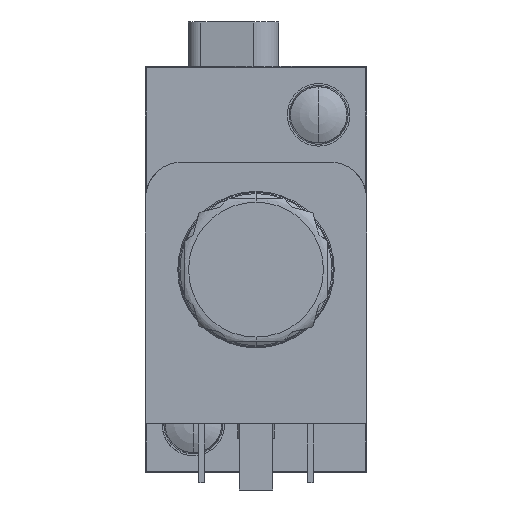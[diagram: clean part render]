
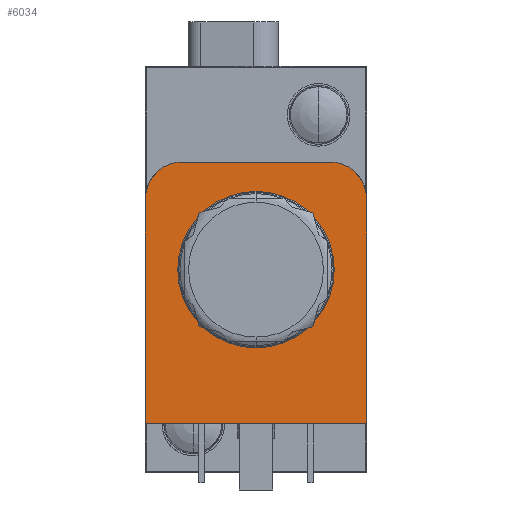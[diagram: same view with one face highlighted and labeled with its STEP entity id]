
A CAD part, front view. The second image highlights one B-rep face of the part: STEP entity #6034.
In plain terms, the highlighted planar face has unit normal (0, -1, 0).
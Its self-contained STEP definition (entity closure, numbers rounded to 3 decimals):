
#1959=DIRECTION('',(1.,0.,0.));
#1960=VECTOR('',#1959,30.);
#1961=CARTESIAN_POINT('',(-15.,-91.,-20.9));
#1962=LINE('8192',#1961,#1960);
#1963=DIRECTION('',(0.,0.,-1.));
#1964=VECTOR('',#1963,30.5);
#1965=CARTESIAN_POINT('',(-15.,-91.,9.6));
#1966=LINE('8197',#1965,#1964);
#1967=CARTESIAN_POINT('',(-10.,-91.,9.6));
#1968=DIRECTION('',(0.,-1.,0.));
#1969=DIRECTION('',(0.,0.,1.));
#1970=AXIS2_PLACEMENT_3D('',#1967,#1968,#1969);
#1972=DIRECTION('',(-1.,0.,0.));
#1973=VECTOR('',#1972,20.);
#1974=CARTESIAN_POINT('',(10.,-91.,14.6));
#1975=LINE('8195',#1974,#1973);
#1976=CARTESIAN_POINT('',(10.,-91.,9.6));
#1977=DIRECTION('',(0.,-1.,0.));
#1978=DIRECTION('',(1.,0.,0.));
#1979=AXIS2_PLACEMENT_3D('',#1976,#1977,#1978);
#1981=DIRECTION('',(0.,0.,1.));
#1982=VECTOR('',#1981,30.5);
#1983=CARTESIAN_POINT('',(15.,-91.,-20.9));
#1984=LINE('8193',#1983,#1982);
#1985=CARTESIAN_POINT('',(0.,-91.,0.));
#1986=DIRECTION('',(0.,-1.,0.));
#1987=DIRECTION('',(0.,0.,-1.));
#1988=AXIS2_PLACEMENT_3D('',#1985,#1986,#1987);
#1990=CARTESIAN_POINT('',(0.,-91.,0.));
#1991=DIRECTION('',(0.,-1.,0.));
#1992=DIRECTION('',(0.,0.,1.));
#1993=AXIS2_PLACEMENT_3D('',#1990,#1991,#1992);
#3378=CARTESIAN_POINT('',(-15.,-91.,-20.9));
#3379=CARTESIAN_POINT('',(15.,-91.,-20.9));
#3380=VERTEX_POINT('',#3378);
#3381=VERTEX_POINT('',#3379);
#3382=CARTESIAN_POINT('',(15.,-91.,9.6));
#3383=VERTEX_POINT('',#3382);
#3384=CARTESIAN_POINT('',(10.,-91.,14.6));
#3385=VERTEX_POINT('',#3384);
#3386=CARTESIAN_POINT('',(-10.,-91.,14.6));
#3387=VERTEX_POINT('',#3386);
#3388=CARTESIAN_POINT('',(-15.,-91.,9.6));
#3389=VERTEX_POINT('',#3388);
#3420=CARTESIAN_POINT('',(0.,-91.,-10.314));
#3421=CARTESIAN_POINT('',(0.,-91.,10.314));
#3422=VERTEX_POINT('',#3420);
#3423=VERTEX_POINT('',#3421);
#6011=CARTESIAN_POINT('',(0.,-91.,0.));
#6012=DIRECTION('',(0.,-1.,0.));
#6013=DIRECTION('',(1.,0.,0.));
#6014=AXIS2_PLACEMENT_3D('',#6011,#6012,#6013);
#6015=PLANE('8191',#6014);
#6016=ORIENTED_EDGE('8192',*,*,#5372,.F.);
#6018=ORIENTED_EDGE('8197',*,*,#6017,.F.);
#6020=ORIENTED_EDGE('8196',*,*,#6019,.F.);
#6022=ORIENTED_EDGE('8195',*,*,#6021,.F.);
#6024=ORIENTED_EDGE('8194',*,*,#6023,.F.);
#6025=ORIENTED_EDGE('8193',*,*,#6004,.F.);
#6026=EDGE_LOOP('8191',(#6016,#6018,#6020,#6022,#6024,#6025));
#6027=FACE_OUTER_BOUND('8191',#6026,.F.);
#6029=ORIENTED_EDGE('8405',*,*,#6028,.T.);
#6031=ORIENTED_EDGE('8406',*,*,#6030,.T.);
#6032=EDGE_LOOP('8191',(#6029,#6031));
#6033=FACE_BOUND('8191',#6032,.F.);
#6034=ADVANCED_FACE('8191',(#6027,#6033),#6015,.T.);
#1971=CIRCLE('8196',#1970,5.);
#1980=CIRCLE('8194',#1979,5.);
#1989=CIRCLE('8405',#1988,10.314);
#1994=CIRCLE('8406',#1993,10.314);
#5372=EDGE_CURVE('8192',#3380,#3381,#1962,.T.);
#6004=EDGE_CURVE('8193',#3381,#3383,#1984,.T.);
#6017=EDGE_CURVE('8197',#3389,#3380,#1966,.T.);
#6019=EDGE_CURVE('8196',#3387,#3389,#1971,.T.);
#6021=EDGE_CURVE('8195',#3385,#3387,#1975,.T.);
#6023=EDGE_CURVE('8194',#3383,#3385,#1980,.T.);
#6028=EDGE_CURVE('8405',#3422,#3423,#1989,.T.);
#6030=EDGE_CURVE('8406',#3423,#3422,#1994,.T.);
